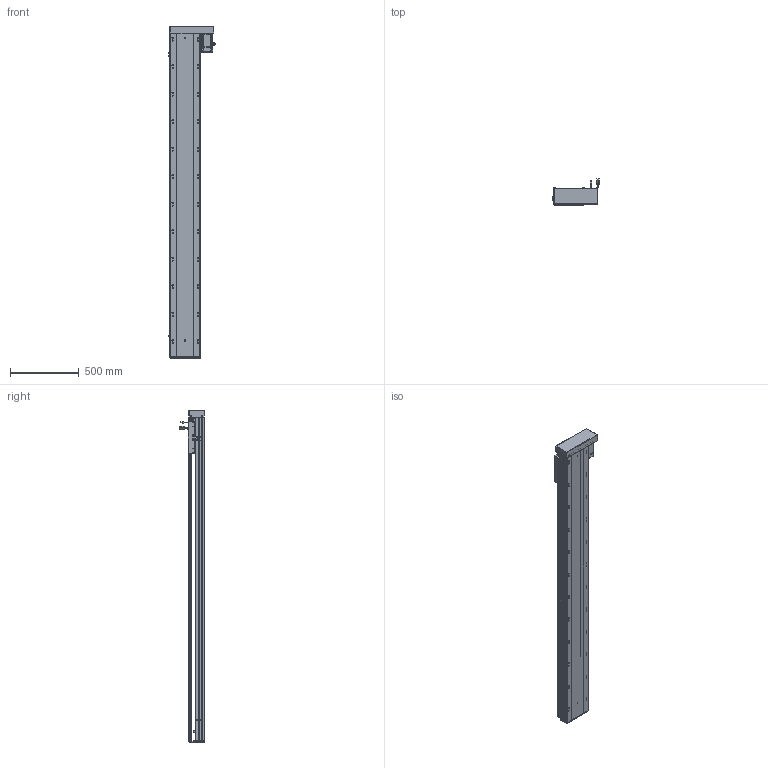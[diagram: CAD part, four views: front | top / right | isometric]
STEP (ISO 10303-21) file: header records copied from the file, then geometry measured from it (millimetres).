
FILE_DESCRIPTION (( 'STEP AP203' ), '1' );
FILE_NAME ('RY220-L2525-800-RK-邧嶺.SLDASM_2000.step', '2022-08-06T08:53:52', ( '' ), ( '' ), 'SwSTEP 2.0', 'SolidWorks 2016', '' );
FILE_SCHEMA (( 'CONFIG_CONTROL_DESIGN' ));
Length unit declared in the file: millimetre
Products named in the file (12): RY220酘衵殏萇儂欶; 怢湛750W_ECMA-CX0807ES; 滅袉蝶18-10; RY220綴裔啣; 覜茼ん672; RY220蛌殏菁釱-800-邧嶺_2000; RY220-L2525-800-RK-邧嶺.SLDASM_2000; RY220半封闭25-32螺母铝滑块; RY220-800-蛌殏奻裔啣_2000; 滅袉蝶18-15; RY220左右折电机安装板; RY220-俋离672覜茼んえ
Assembly tree (15 placements, depth 2):
  RY220-L2525-800-RK-邧嶺.SLDASM_2000
    RY220蛌殏菁釱-800-邧嶺_2000
    RY220-800-蛌殏奻裔啣_2000
    怢湛750W_ECMA-CX0807ES
    滅袉蝶18-10  x2
    RY220-俋离672覜茼んえ
    覜茼ん672  x3
    RY220綴裔啣
    RY220半封闭25-32螺母铝滑块
    滅袉蝶18-15  x2
    RY220左右折电机安装板
    RY220酘衵殏萇儂欶
Bounding box: 347.44 x 187.27 x 2414 mm (x, y, z)
Volume: 18210759.8 mm3; surface area: 5550215.7 mm2
Topology: 16 solids, 16 shells, 2373 faces, 6556 edges, 4109 vertices
Faces by surface type: cylinder 1109, plane 904, cone 290, bspline 44, sphere 16, torus 10
Entity records: 78403 total; most frequent: CARTESIAN_POINT 22499, ORIENTED_EDGE 11560, DIRECTION 11036, EDGE_CURVE 5780, AXIS2_PLACEMENT_3D 3931, VERTEX_POINT 3765, LINE 3174, VECTOR 3174
